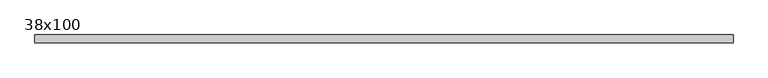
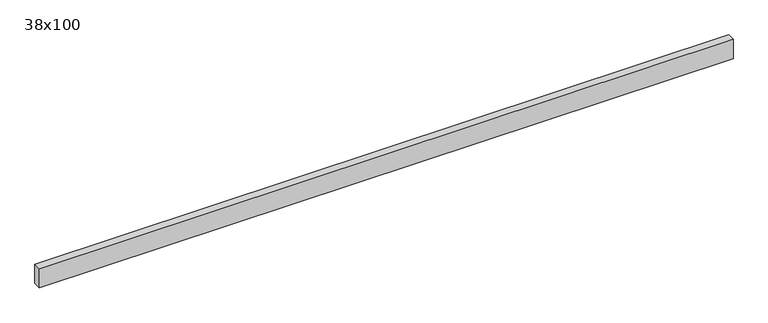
"""IFC4 building model written with IfcOpenShell, lengths in millimetres: beam geometry, Poutre - Bois de construction de dimensions courantes : 38x100."""

from ifc_helpers import new_model, si_unit, frame, origin, place, context, project, spatial, polyline, outline, extrude, source, transform, mapped, element, save


def beam_38x100_c4765808(model_context):
    return source(origin(), model_context, "Body", "SweptSolid", [
        extrude(outline(polyline([(1619.0, 19.05), (1619.0, -19.05), (-1779.0, -19.05), (-1779.0, 19.05), (1619.0, 19.05)])), frame((0.0, 0.0, -50.0), z_axis=(0.0, 0.0, 1.0), x_axis=(1.0, 0.0, 0.0)), (0.0, 0.0, 1.0), 100.0),
    ])


if __name__ == "__main__":
    model = new_model("IFC4")
    model_context = context("Model", 3, world=origin())
    ifc_project = project(units=[si_unit("LENGTHUNIT", "METRE", prefix="MILLI")], contexts=[model_context])
    site = spatial("IfcSite", under=ifc_project)
    building = spatial("IfcBuilding", under=site)
    placement = place(None, origin())
    beam_38x100_shape = beam_38x100_c4765808(model_context)
    element("IfcBeam", 1, ObjectType="Poutre - Bois de construction de dimensions courantes : 38x100", at=placement, inside=building, context=model_context, shape_type="MappedRepresentation", body=[
        mapped(beam_38x100_shape, transform((0.0, 0.0, 0.0), x_axis=(1.0, 0.0, 0.0), y_axis=(0.0, 1.0, 0.0), z_axis=(0.0, 0.0, 1.0))),
    ])
    save(model, "model.ifc")
